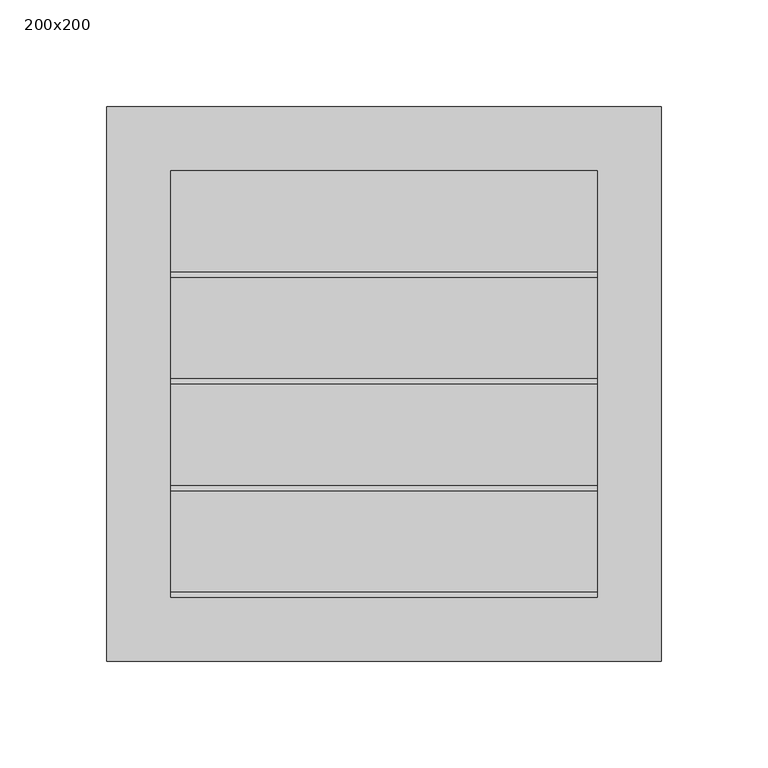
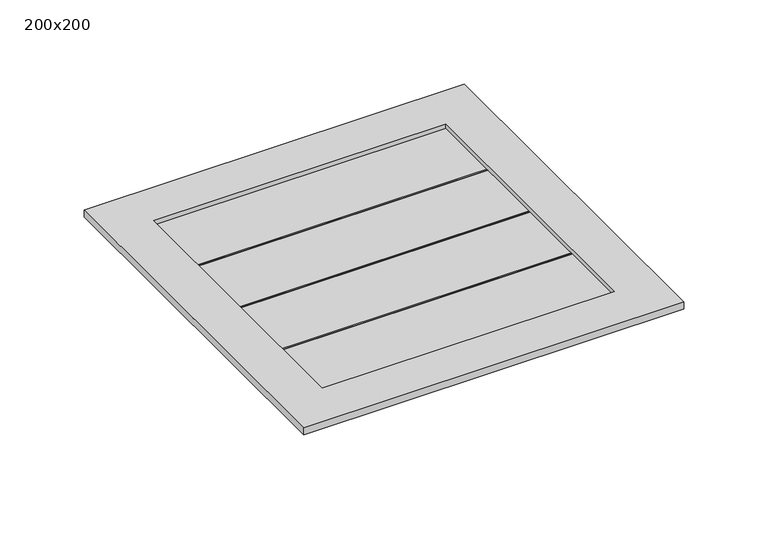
"""IFC4 building model written with IfcOpenShell, lengths in millimetres: proxy geometry, Eq_Отв- заполнение_решетка П : 200x200."""

from ifc_helpers import new_model, si_unit, origin, origin_with_axes, place, context, project, spatial, polyline, outline, extrude, faceted_brep, source, transform, mapped, element, save


def proxy_200x200_7656bd7d(model_context):
    return source(origin(), model_context, "Body", "SolidModel", [
        faceted_brep([(130.0, 130.0, 0.0), (130.0, 130.0, 5.0), (130.0, -130.0, 5.0), (130.0, -130.0, 0.0), (102.0, 102.0, -18.0), (102.0, 102.0, 0.0), (102.0, -102.0, 0.0), (102.0, -102.0, -18.0), (100.0, 100.0, 5.0), (100.0, 100.0, -18.0), (100.0, -100.0, -18.0), (100.0, -100.0, 5.0), (-130.0, -130.0, 5.0), (-130.0, -130.0, 0.0), (-102.0, -102.0, 0.0), (-102.0, -102.0, -18.0), (-100.0, -100.0, -18.0), (-100.0, -100.0, 5.0), (-130.0, 130.0, 5.0), (-130.0, 130.0, 0.0), (-102.0, 102.0, 0.0), (-102.0, 102.0, -18.0), (-100.0, 100.0, -18.0), (-100.0, 100.0, 5.0)], [[[0, 1, 2, 3]], [[4, 5, 6, 7]], [[8, 9, 10, 11]], [[3, 2, 12, 13]], [[7, 6, 14, 15]], [[11, 10, 16, 17]], [[13, 12, 18, 19]], [[15, 14, 20, 21]], [[17, 16, 22, 23]], [[1, 18, 12, 2], [11, 17, 23, 8]], [[19, 18, 1, 0]], [[3, 13, 19, 0], [5, 20, 14, 6]], [[21, 20, 5, 4]], [[7, 15, 21, 4], [9, 22, 16, 10]], [[23, 22, 9, 8]]]),
        faceted_brep([(100.0, 100.0, -10.0), (100.0, -100.0, -10.0), (-100.0, -100.0, -10.0), (-100.0, 100.0, -10.0), (-100.0, 100.0, -8.0), (100.0, 100.0, -8.0), (-100.0, -100.0, -8.0), (-100.0, -100.0, 2.0), (-100.0, -50.0, -8.0), (-100.0, -50.0, 2.0), (-100.0, 0.0, -8.0), (-100.0, 0.0, 2.0), (-100.0, 50.0, -8.0), (-100.0, 50.0, 2.0), (100.0, -100.0, -8.0), (100.0, -100.0, 2.0), (100.0, 50.0, 2.0), (100.0, 50.0, -8.0), (100.0, 0.0, 2.0), (100.0, 0.0, -8.0), (100.0, -50.0, 2.0), (100.0, -50.0, -8.0)], [[[0, 1, 2, 3]], [[0, 3, 4, 5]], [[3, 2, 6, 7, 8, 9, 10, 11, 12, 13, 4]], [[2, 1, 14, 15, 7, 6]], [[1, 0, 5, 16, 17, 18, 19, 20, 21, 15, 14]], [[16, 13, 12, 17]], [[13, 16, 5, 4]], [[21, 8, 7, 15]], [[8, 21, 20, 9]], [[9, 20, 19, 10]], [[10, 19, 18, 11]], [[17, 12, 11, 18]]]),
        extrude(outline(polyline([(100.0, 100.0), (100.0, -100.0), (-100.0, -100.0), (-100.0, 100.0), (100.0, 100.0)])), origin_with_axes(), (0.0, 0.0, 1.0), 2.0),
    ])


if __name__ == "__main__":
    model = new_model("IFC4")
    model_context = context("Model", 3, world=origin())
    ifc_project = project(units=[si_unit("LENGTHUNIT", "METRE", prefix="MILLI")], contexts=[model_context])
    site = spatial("IfcSite", under=ifc_project)
    building = spatial("IfcBuilding", under=site)
    placement = place(None, origin())
    proxy_200x200_shape = proxy_200x200_7656bd7d(model_context)
    element("IfcBuildingElementProxy", 1, Name="Eq_Отв- заполнение_решетка П : 200x200", ObjectType="Eq_Отв- заполнение_решетка П : 200x200", at=placement, inside=building, context=model_context, shape_type="MappedRepresentation", body=[
        mapped(proxy_200x200_shape, transform((0.0, 0.0, 0.0), x_axis=(1.0, 0.0, 0.0), y_axis=(0.0, 1.0, 0.0), z_axis=(0.0, 0.0, 1.0))),
    ])
    save(model, "model.ifc")
